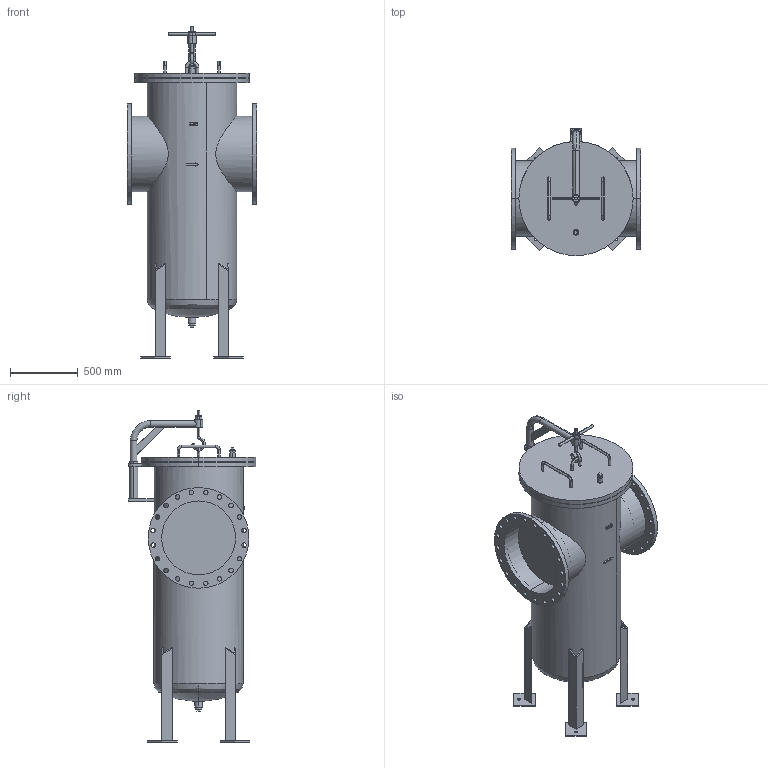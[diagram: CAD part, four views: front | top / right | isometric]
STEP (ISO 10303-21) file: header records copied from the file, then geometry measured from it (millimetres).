
FILE_DESCRIPTION( (''), '2;1');
FILE_NAME ('PC1056.7720.SU-6(550A)_235.stp','2024-07-30T17:24:15',(''),(''),'spGate 19.8.4 (****-****-****-****)','','');
FILE_SCHEMA (('AUTOMOTIVE_DESIGN'));
Length unit declared in the file: millimetre
Products named in the file (26): Assembly; SU6(550A)本体P; PC1056-prt1; PC1056-prt2; PC1056-prt3; PC1056-prt4; PC1056-prt5; 550Aダビッド_M5; PC1056-prt7; PC1056-prt8; PC1056-prt9; PC1056-prt10; PC1056-prt11; 550A取っ手_M5; 400Aカギ形フック_M5; 400Aカギ形フック_M6; 400Aカギ形フック_M7; 400Aハンドル; PC1056-prt17; PC1056-prt18; PC1056-prt19; PC1056-prt20; PC1056-prt21; 450Aふた用ふっく_M4; plug-25A-JISB2301; plug-40A-JISB2301
Assembly tree (33 placements, depth 2):
  Assembly
    SU6(550A)本体P
    PC1056-prt1
    PC1056-prt2
    PC1056-prt3
    PC1056-prt4
    PC1056-prt5
    550Aダビッド_M5
    PC1056-prt7  x4
    PC1056-prt8  x4
    PC1056-prt9  x2
    PC1056-prt10
    PC1056-prt11
    550A取っ手_M5  x2
    400Aカギ形フック_M5
    400Aカギ形フック_M6
    400Aカギ形フック_M7
    400Aハンドル
    PC1056-prt17
    PC1056-prt18
    PC1056-prt19
    PC1056-prt20
    PC1056-prt21
    450Aふた用ふっく_M4
    plug-25A-JISB2301
    plug-40A-JISB2301
Bounding box: 960 x 942.5 x 2456 mm (x, y, z)
Volume: 657630598.1 mm3; surface area: 8492021.5 mm2
Topology: 11 solids, 11 shells, 415 faces, 1090 edges, 746 vertices
Faces by surface type: cylinder 208, plane 145, bspline 60, sphere 2
Entity records: 26310 total; most frequent: CARTESIAN_POINT 7848, ORIENTED_EDGE 2076, DIRECTION 1949, COLOUR_RGB 1466, PRESENTATION_STYLE_ASSIGNMENT 1466, STYLED_ITEM 1466, DRAUGHTING_PRE_DEFINED_CURVE_FONT 1053, CURVE_STYLE 1053
